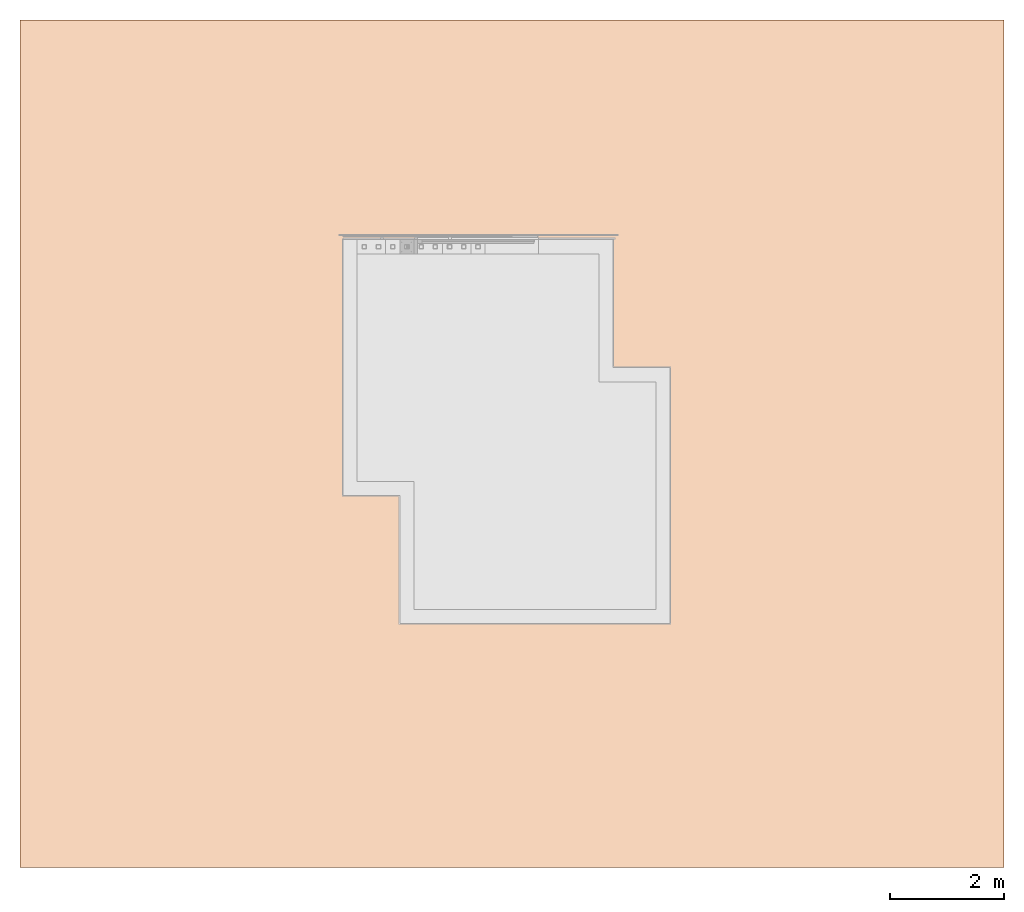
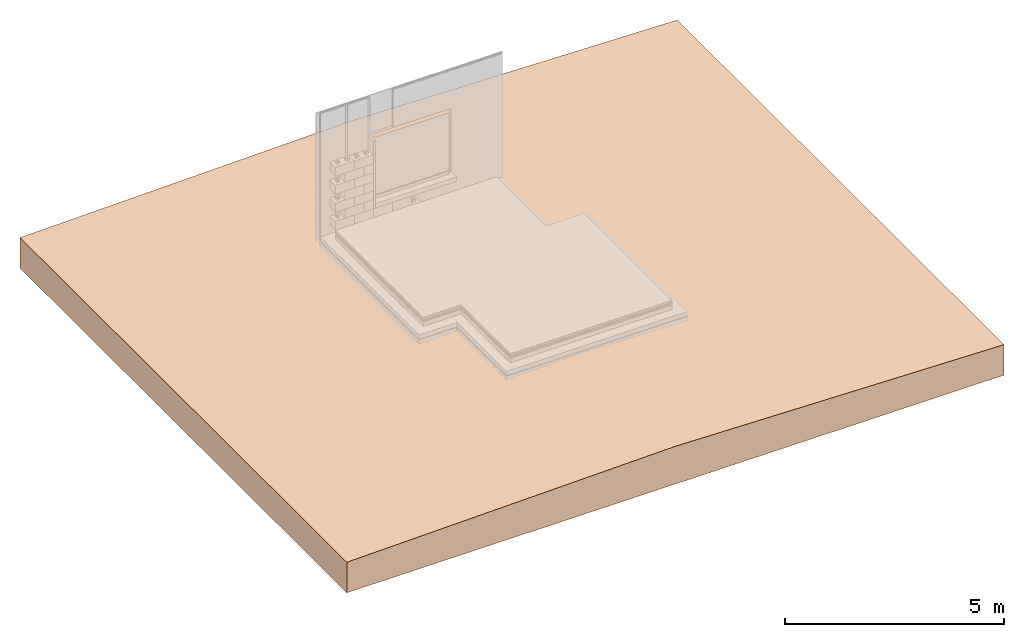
# One storey, part 3 of 3: 1 geographic element.
"""IFC4 building model written with IfcOpenShell, lengths in centimetres."""

from ifc_helpers import new_model, entity, si_unit, converted_unit, direction, frame, origin, place, context, subcontext, project, spatial, indexed_curve, outline, extrude, material, constituent, constituent_set, type_object, element, save


model = new_model("IFC4")

# Units and contexts
model_context = context("Model", 3, precision=0.001, world=origin(), true_north=direction((0.0, 1.0)))
body_context = subcontext(model_context, "Body", "Model", "MODEL_VIEW")
ifc_project = project(units=[si_unit("LENGTHUNIT", "METRE", prefix="CENTI"), si_unit("AREAUNIT", "SQUARE_METRE"), si_unit("VOLUMEUNIT", "CUBIC_METRE"), converted_unit("PLANEANGLEUNIT", "DEGREE", entity("IfcPlaneAngleMeasure", 0.017453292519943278), si_unit("PLANEANGLEUNIT", "RADIAN"), dimensions=[0, 0, 0, 0, 0, 0, 0])], contexts=[model_context])

# Site, building, storey
site_placement = place(None, origin())
site = spatial("IfcSite", under=ifc_project, at=site_placement, Name="Default", CompositionType="ELEMENT")
building_placement = place(site_placement, origin())
building = spatial("IfcBuilding", under=site, at=building_placement, CompositionType="ELEMENT")
storey_placement = place(building_placement, frame((0.0, 0.0, -23.700000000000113)))
storey = spatial("IfcBuildingStorey", under=building, at=storey_placement, Name="L00__ABOVE Slab", CompositionType="ELEMENT", Elevation=-23.700000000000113)

# Geographic element
ifc_material_1 = material(Name="_STRUCTURE__Precast Concrete__Waterproof", Category="Unassigned")
ifc_constituent_1 = constituent(ifc_material_1, Name="_STRUCTURE__Precast Concrete__Waterproof", Category="Unassigned", fraction=0.047619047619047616)
ifc_material_2 = material(Name="_GREENERY__Subgrade__Earth")
ifc_constituent_2 = constituent(ifc_material_2, Name="_GREENERY__Subgrade__Earth", fraction=0.9523809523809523)
ifc_constituent_set = constituent_set(constituents=[ifc_constituent_1, ifc_constituent_2], Name="Toposolid:Toposolid 1")
geographic_element_type = type_object("IfcGeographicElementType", Name="Toposolid : Toposolid : Toposolid 1", PredefinedType="TERRAIN", material=ifc_constituent_set)
geographic_element_placement = place(storey_placement, origin())
element("IfcGeographicElement", 1, at=geographic_element_placement, inside=storey, type_object=geographic_element_type, material=ifc_constituent_set, Name="Toposolid : Toposolid : Toposolid 1", PredefinedType="TERRAIN", context=body_context, shape_type="SweptSolid", body=[
    extrude(outline(indexed_curve([(-55.00000000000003, -865.0000000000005), (30.000000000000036, -865.0000000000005), (50.00000000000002, -8.662937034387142e-13), (30.00000000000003, 864.9999999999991), (-55.00000000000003, 864.9999999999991), (-55.00000000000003, -865.0000000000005)], self_intersect=False)), frame((3410.2625781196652, 1484.7064043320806, -67.12747089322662), z_axis=(0.0, 1.0, 0.0), x_axis=(0.0, 0.0, 1.0)), (0.0, 0.0, 1.0), 1490.0),
])

save(model, "model.ifc")
